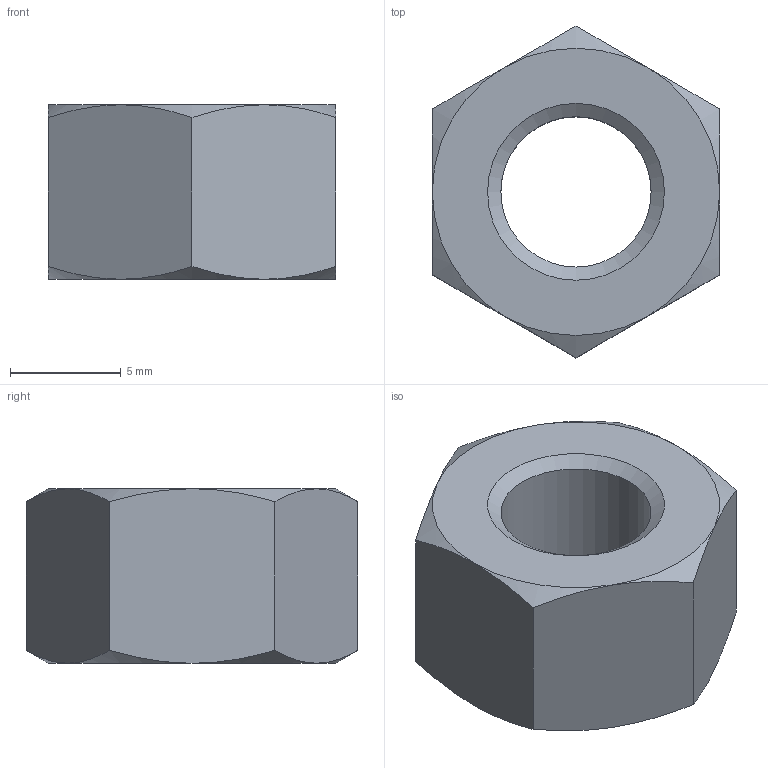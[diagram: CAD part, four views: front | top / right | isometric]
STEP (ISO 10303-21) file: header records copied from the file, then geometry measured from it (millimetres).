
FILE_DESCRIPTION (( 'STEP AP203' ), '1' );
FILE_NAME ('Écrou hexagonal ISO 4034 - M8.STEP', '2026-06-24T07:29:51', ( '' ), ( '' ), 'SwSTEP 2.0', 'SolidWorks 2024', '' );
FILE_SCHEMA (( 'CONFIG_CONTROL_DESIGN' ));
Length unit declared in the file: millimetre
Products named in the file (1): Écrou hexagonal ISO 4034 - M8_ISO - 4034 - M8 - C
Bounding box: 13 x 15.01 x 7.9 mm (x, y, z)
Volume: 858.5 mm3; surface area: 719.2 mm2
Topology: 1 solids, 1 shells, 24 faces, 53 edges, 31 vertices
Faces by surface type: cone 14, plane 8, cylinder 2
Full cylindrical faces by diameter (mm): 6.8 x1, 8 x1
Entity records: 779 total; most frequent: CARTESIAN_POINT 237, ORIENTED_EDGE 94, DIRECTION 90, EDGE_CURVE 47, AXIS2_PLACEMENT_3D 42, EDGE_LOOP 30, VERTEX_POINT 29, FACE_OUTER_BOUND 26
